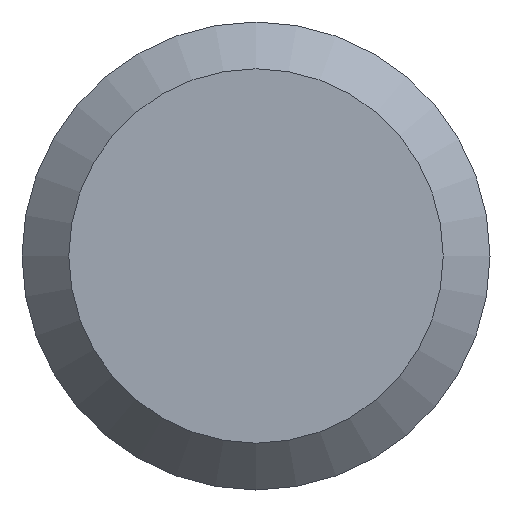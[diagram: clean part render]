
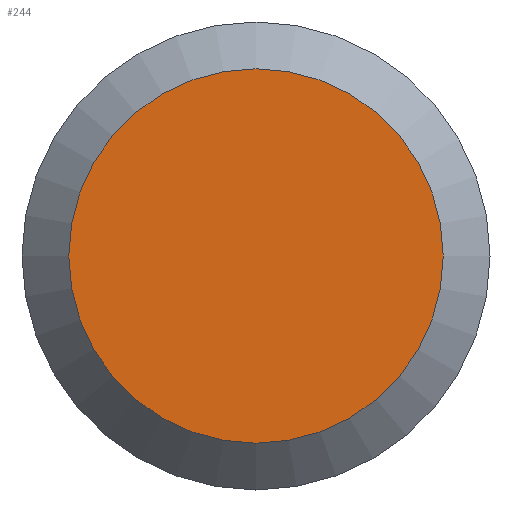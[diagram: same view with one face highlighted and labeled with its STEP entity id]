
A CAD part, left-side view. The second image highlights one B-rep face of the part: STEP entity #244.
In plain terms, the highlighted planar face has unit normal (-1, 0, 0).
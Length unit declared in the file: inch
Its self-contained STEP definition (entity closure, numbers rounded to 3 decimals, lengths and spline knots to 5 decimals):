
#1 = DIRECTION ( 'NONE',  ( 0., 0., -1. ) ) ;
#7 = AXIS2_PLACEMENT_3D ( 'NONE', #139, #194, #1 ) ;
#16 = PLANE ( 'NONE',  #7 ) ;
#44 = EDGE_LOOP ( 'NONE', ( #124 ) ) ;
#71 = CARTESIAN_POINT ( 'NONE',  ( 0., 0., -0.11875 ) ) ;
#89 = FACE_OUTER_BOUND ( 'NONE', #44, .T. ) ;
#96 = DIRECTION ( 'NONE',  ( 0., 0., -1. ) ) ;
#98 = DIRECTION ( 'NONE',  ( -1., 0., 0. ) ) ;
#99 = CARTESIAN_POINT ( 'NONE',  ( 0., 0., 0. ) ) ;
#124 = ORIENTED_EDGE ( 'NONE', *, *, #195, .T. ) ;
#139 = CARTESIAN_POINT ( 'NONE',  ( 0., 0.14844, 0. ) ) ;
#178 = VERTEX_POINT ( 'NONE', #71 ) ;
#194 = DIRECTION ( 'NONE',  ( 1., 0., 0. ) ) ;
#195 = EDGE_CURVE ( 'NONE', #178, #178, #196, .T. ) ;
#196 = CIRCLE ( 'NONE', #214, 0.11875 ) ;
#214 = AXIS2_PLACEMENT_3D ( 'NONE', #99, #98, #96 ) ;
#244 = ADVANCED_FACE ( 'NONE', ( #89 ), #16, .F. ) ;
